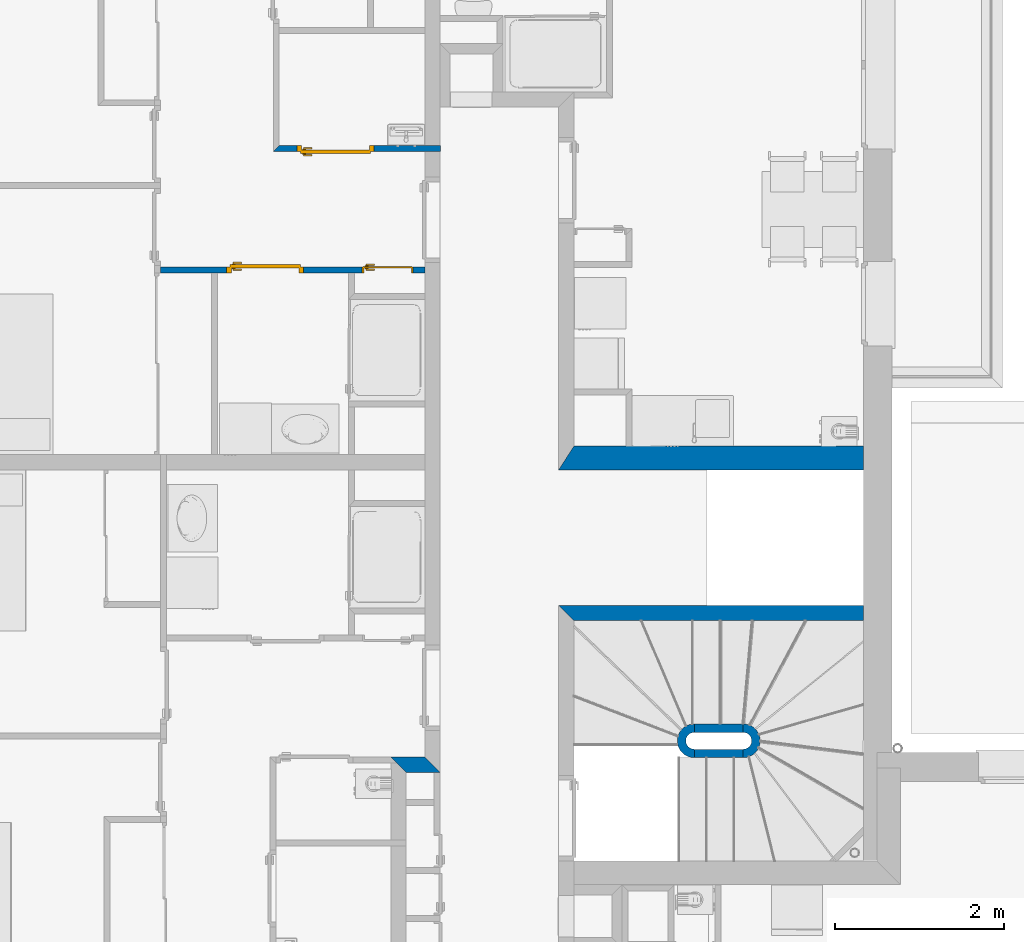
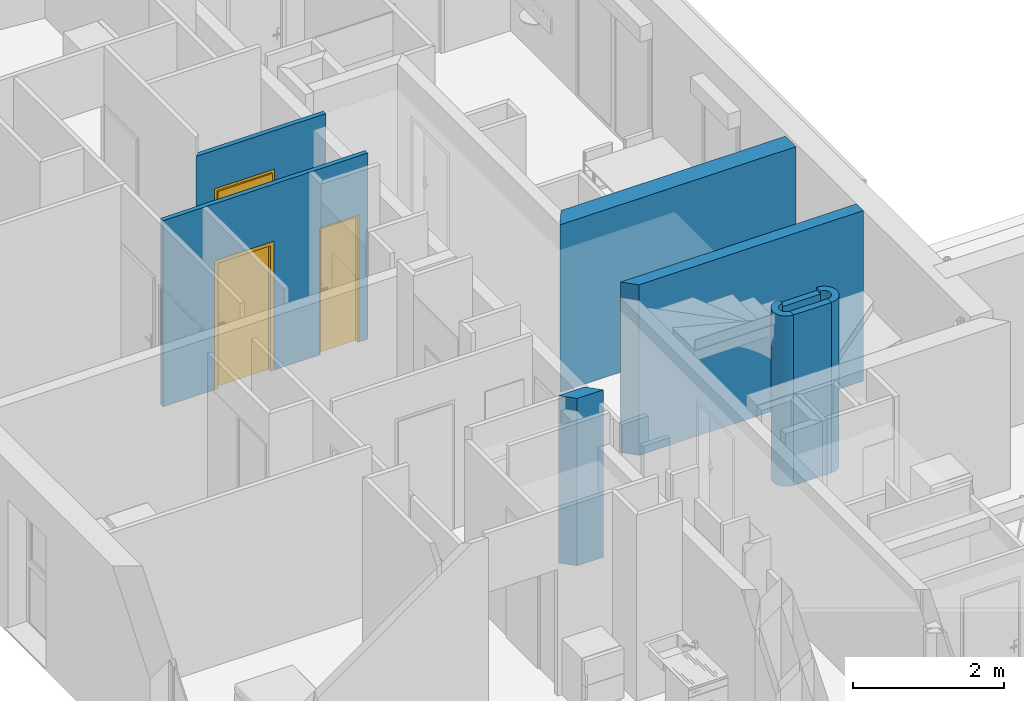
# One storey, part 30 of 164: 9 walls, 3 doors, 3 openings.
"""IFC2X3 building model written with IfcOpenShell, lengths in millimetres."""

from ifc_helpers import new_model, entity, si_unit, converted_unit, derived_unit, money_unit, point, direction, frame, frame_2d, origin_with_axes, origin_2d_with_axis, place, context, subcontext, project, spatial, polyline, circle_curve, parameter, trimmed, segment, composite_curve, rectangle, outline, extrude, faceted_brep, source, transform, mapped, material, layer, layer_set, layer_usage, type_object, element, fill, save


model = new_model("IFC2X3")

# Units and contexts
model_context = context("Model", 3, precision=0.01, world=origin_with_axes(), true_north=direction((0.0, 1.0)))
body_context = subcontext(model_context, "Body", "Model", "MODEL_VIEW")
ifc_project = project(units=[si_unit("LENGTHUNIT", "METRE", prefix="MILLI"), si_unit("AREAUNIT", "SQUARE_METRE"), si_unit("VOLUMEUNIT", "CUBIC_METRE"), converted_unit("PLANEANGLEUNIT", "DEGREE", entity("IfcPlaneAngleMeasure", 0.0174532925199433), si_unit("PLANEANGLEUNIT", "RADIAN"), dimensions=[0, 0, 0, 0, 0, 0, 0]), money_unit("USD"), converted_unit("TIMEUNIT", "Year", entity("IfcTimeMeasure", 31557600.0), si_unit("TIMEUNIT", "SECOND"), dimensions=[0, 0, 1, 0, 0, 0, 0]), si_unit("MASSUNIT", "GRAM", prefix="KILO"), si_unit("THERMODYNAMICTEMPERATUREUNIT", "DEGREE_CELSIUS"), si_unit("LUMINOUSINTENSITYUNIT", "LUMEN"), si_unit("ENERGYUNIT", "JOULE", prefix="MEGA"), derived_unit("THERMALCONDUCTANCEUNIT", [(si_unit("POWERUNIT", "WATT"), 1), (si_unit("LENGTHUNIT", "METRE"), -1), (si_unit("THERMODYNAMICTEMPERATUREUNIT", "KELVIN"), -1)]), derived_unit("SPECIFICHEATCAPACITYUNIT", [(si_unit("ENERGYUNIT", "JOULE"), 1), (si_unit("MASSUNIT", "GRAM", prefix="KILO"), -1), (si_unit("THERMODYNAMICTEMPERATUREUNIT", "KELVIN"), -1)]), derived_unit("MASSDENSITYUNIT", [(si_unit("MASSUNIT", "GRAM", prefix="KILO"), 1), (si_unit("VOLUMEUNIT", "CUBIC_METRE"), -1)])], contexts=[model_context])

# Site, building, storey
site_placement = place(None, origin_with_axes())
site = spatial("IfcSite", under=ifc_project, at=site_placement, Name="Site", CompositionType="ELEMENT")
building_placement = place(site_placement, origin_with_axes())
building = spatial("IfcBuilding", under=site, at=building_placement, Name="Bâtiment", CompositionType="ELEMENT")
storey_placement = place(building_placement, frame((0.0, 0.0, 5750.0), z_axis=(0.0, 0.0, 1.0), x_axis=(1.0, 0.0, 0.0)))
storey = spatial("IfcBuildingStorey", under=building, at=storey_placement, Name="Etage1", CompositionType="ELEMENT", Elevation=5750.0)

# Walls
ifc_material_1 = material(Name="Parpaing 314940890")
ifc_layer_1 = layer(ifc_material_1, 180.0, ventilated="UNKNOWN")
ifc_layer_set_1 = layer_set([ifc_layer_1], Name="Beton  18 0018356637")
ifc_layer_usage_1 = layer_usage(ifc_layer_set_1, "AXIS2", "POSITIVE", 0.0)
wall_type_1 = type_object("IfcWallType", Name="Beton  18 0018356637 180", PredefinedType="NOTDEFINED")
wall_1_placement = place(storey_placement, frame((2224312.399066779, -636007.2995732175, 0.0), z_axis=(0.0, 0.0, 1.0), x_axis=(-0.9999999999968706, 2.501772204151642e-06, 0.0)))
element("IfcWallStandardCase", 1, at=wall_1_placement, inside=storey, type_object=wall_type_1, material=ifc_layer_usage_1, Name="Mur-142", context=body_context, shape_type="SweptSolid", body=[
    extrude(outline(polyline([(180.0000000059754, 0.0), (579.9989459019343, 0.0), (399.9984955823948, 180.0000000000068), (-0.001451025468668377, 179.9999999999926), (180.0000000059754, 0.0)])), origin_with_axes(), (0.0, 0.0, 1.0), 2700.0),
])
ifc_layer_usage_2 = layer_usage(ifc_layer_set_1, "AXIS2", "POSITIVE", 0.0)
wall_2_placement = place(storey_placement, frame((2225712.318356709, -634393.514679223, 0.0), z_axis=(0.0, 0.0, 1.0), x_axis=(1.0, 0.0, 0.0)))
element("IfcWallStandardCase", 2, at=wall_2_placement, inside=storey, type_object=wall_type_1, material=ifc_layer_usage_2, Name="Mur-143", context=body_context, shape_type="SweptSolid", body=[
    extrude(outline(polyline([(179.99999999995, 0.0), (3601.157680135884, 0.0), (3601.157680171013, 180.0000000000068), (1.13686837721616e-10, 180.0000000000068), (179.99999999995, 0.0)])), origin_with_axes(), (0.0, 0.0, 1.0), 2750.0),
])

# Wall, opening, door
ifc_material_2 = material(Name="Hachure solide 268963992")
ifc_layer_2 = layer(ifc_material_2, 70.0, ventilated="UNKNOWN")
ifc_layer_set_2 = layer_set([ifc_layer_2], Name="Cloison 70 0826278243")
ifc_layer_usage_3 = layer_usage(ifc_layer_set_2, "AXIS2", "POSITIVE", -70.0)
wall_type_2 = type_object("IfcWallType", Name="Cloison 70 0826278243 70", PredefinedType="NOTDEFINED")
wall_3_placement = place(storey_placement, frame((2224317.414002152, -628849.987292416, 0.0), z_axis=(0.0, 0.0, 1.0), x_axis=(-1.0, 0.0, 0.0)))
wall_3 = element("IfcWallStandardCase", 3, at=wall_3_placement, inside=storey, type_object=wall_type_2, material=ifc_layer_usage_3, Name="Mur-149", context=body_context, shape_type="SweptSolid", body=[
    extrude(outline(polyline([(0.0, -70.00000000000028), (1905.095308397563, -70.00000000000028), (1975.095355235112, 0.0), (0.0, 0.0), (0.0, -70.00000000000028)])), origin_with_axes(), (0.0, 0.0, 1.0), 2700.0),
])
opening_1_placement = place(wall_3_placement, frame((1240.456401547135, 0.0, 0.0), z_axis=(0.0, 0.0, 1.0), x_axis=(1.0, 0.0, 0.0)))
opening_1 = element("IfcOpeningElement", 4, at=opening_1_placement, cuts=wall_3, Name="Por-276", context=body_context, shape_type="SweptSolid", body=[
    extrude(rectangle(XDim=910.0, YDim=2080.0, at=origin_2d_with_axis()), frame((0.0, -70.00000000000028, 1040.0), z_axis=(0.0, -1.0, 0.0), x_axis=(-1.0, 0.0, 0.0)), (0.0, 0.0, -1.0), 140.0),
])
door_style = type_object("IfcDoorStyle", Name="Porte_1v", ConstructionType="NOTDEFINED", OperationType="NOTDEFINED", ParameterTakesPrecedence=False, Sizeable=False)
shared_shape_1 = source(origin_with_axes(), body_context, "Body", "Brep", [
    faceted_brep([(-454.9999999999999, 0.0, 0.0), (-454.9999999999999, 0.0, 2080.0), (454.9999999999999, 0.0, 2080.0), (454.9999999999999, 0.0, 0.0), (414.9999999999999, 0.0, 0.0), (414.9999999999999, 0.0, 2040.0), (-414.9999999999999, 0.0, 2040.0), (-414.9999999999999, 0.0, 0.0), (-454.9999999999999, -69.99999999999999, 0.0), (-454.9999999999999, -69.99999999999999, 2080.0), (454.9999999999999, -69.99999999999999, 2080.0), (454.9999999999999, -69.99999999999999, 0.0), (399.9999999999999, -69.99999999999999, 0.0), (399.9999999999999, -15.0, 0.0), (414.9999999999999, -15.0, 0.0), (414.9999999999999, -15.0, 2040.0), (-414.9999999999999, -14.99999999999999, 2040.0), (-414.9999999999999, -14.99999999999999, 0.0), (-399.9999999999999, -14.99999999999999, 0.0), (-399.9999999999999, -69.99999999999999, 0.0), (-399.9999999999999, -69.99999999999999, 2025.0), (399.9999999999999, -69.99999999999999, 2025.0), (399.9999999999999, -15.0, 2025.0), (-399.9999999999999, -14.99999999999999, 2025.0)], [[[0, 1, 2, 3, 4, 5, 6, 7]], [[8, 9, 1, 0]], [[9, 10, 2, 1]], [[10, 11, 3, 2]], [[3, 11, 12, 13, 14, 4]], [[5, 4, 14, 15]], [[6, 5, 15, 16]], [[7, 6, 16, 17]], [[0, 7, 17, 18, 19, 8]], [[19, 20, 21, 12, 11, 10, 9, 8]], [[22, 13, 12, 21]], [[17, 16, 15, 14, 13, 22, 23, 18]], [[18, 23, 20, 19]], [[23, 22, 21, 20]]]),
    faceted_brep([(350.0, -15.0, 900.0), (350.0, -15.0, 1100.0), (389.9999999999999, -15.0, 1100.0), (389.9999999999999, -15.0, 900.0), (350.0, -25.0, 900.0), (350.0, -25.0, 1100.0), (389.9999999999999, -25.0, 1100.0), (389.9999999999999, -25.0, 900.0)], [[[0, 1, 2, 3]], [[0, 4, 5, 1]], [[1, 5, 6, 2]], [[2, 6, 7, 3]], [[3, 7, 4, 0]], [[7, 6, 5, 4]]]),
    faceted_brep([(279.9999999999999, -25.0, 1000.0), (279.9999999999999, -25.0, 1020.0), (379.9999999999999, -25.0, 1020.0), (379.9999999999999, -25.0, 1000.0), (279.9999999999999, -45.0, 1000.0), (279.9999999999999, -45.0, 1020.0), (379.9999999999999, -45.0, 1020.0), (379.9999999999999, -45.0, 1000.0)], [[[0, 1, 2, 3]], [[0, 4, 5, 1]], [[1, 5, 6, 2]], [[2, 6, 7, 3]], [[3, 7, 4, 0]], [[7, 6, 5, 4]]]),
    faceted_brep([(350.0, 34.99999999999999, 900.0), (350.0, 34.99999999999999, 1100.0), (389.9999999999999, 34.99999999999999, 1100.0), (389.9999999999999, 34.99999999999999, 900.0), (350.0, 24.99999999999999, 900.0), (350.0, 24.99999999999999, 1100.0), (389.9999999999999, 24.99999999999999, 1100.0), (389.9999999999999, 24.99999999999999, 900.0)], [[[0, 1, 2, 3]], [[0, 4, 5, 1]], [[1, 5, 6, 2]], [[2, 6, 7, 3]], [[3, 7, 4, 0]], [[7, 6, 5, 4]]]),
    faceted_brep([(279.9999999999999, 54.99999999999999, 1000.0), (279.9999999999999, 54.99999999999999, 1020.0), (379.9999999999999, 54.99999999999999, 1020.0), (379.9999999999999, 54.99999999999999, 1000.0), (279.9999999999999, 34.99999999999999, 1000.0), (279.9999999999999, 34.99999999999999, 1020.0), (379.9999999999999, 34.99999999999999, 1020.0), (379.9999999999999, 34.99999999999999, 1000.0)], [[[0, 1, 2, 3]], [[0, 4, 5, 1]], [[1, 5, 6, 2]], [[2, 6, 7, 3]], [[3, 7, 4, 0]], [[7, 6, 5, 4]]]),
    faceted_brep([(414.9999999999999, 24.99999999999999, 0.0), (414.9999999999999, -15.0, 0.0), (-414.9999999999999, -14.99999999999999, 0.0), (-414.9999999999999, 25.0, 0.0), (414.9999999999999, 24.99999999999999, 2040.0), (414.9999999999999, -15.0, 2040.0), (-414.9999999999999, -14.99999999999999, 2040.0), (-414.9999999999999, 25.0, 2040.0)], [[[0, 1, 2, 3]], [[4, 5, 1, 0]], [[1, 5, 6, 2]], [[3, 2, 6, 7]], [[0, 3, 7, 4]], [[7, 6, 5, 4]]]),
])
door_1_placement = place(opening_1_placement, frame((-414.9999999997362, 0.0, 0.0), z_axis=(0.0, 0.0, 1.0), x_axis=(1.0, 0.0, 0.0)))
door_1 = element("IfcDoor", 5, at=door_1_placement, inside=storey, type_object=door_style, Name="Por-276", OverallHeight=2040.0, OverallWidth=830.0, context=body_context, shape_type="MappedRepresentation", body=[
    mapped(shared_shape_1, transform((414.9999999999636, 0.0, 0.0))),
])
fill(opening_1, door_1)

# Wall, openings, doors
ifc_layer_usage_4 = layer_usage(ifc_layer_set_2, "AXIS2", "POSITIVE", -70.0)
wall_4_placement = place(storey_placement, frame((2220940.801403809, -630214.4110607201, 0.0), z_axis=(0.0, 0.0, 1.0), x_axis=(1.0, 0.0, 0.0)))
wall_4 = element("IfcWallStandardCase", 6, at=wall_4_placement, inside=storey, type_object=wall_type_2, material=ifc_layer_usage_4, Name="Mur-150", context=body_context, shape_type="SweptSolid", body=[
    extrude(outline(polyline([(69.99999324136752, -70.00000000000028), (3191.565846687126, -70.00000000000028), (3191.565457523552, 0.0), (69.99999999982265, 0.0), (69.99999324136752, -70.00000000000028)])), origin_with_axes(), (0.0, 0.0, 1.0), 3000.0),
])
opening_2_placement = place(wall_4_placement, frame((1305.181597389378, 0.0, 0.0), z_axis=(0.0, 0.0, 1.0), x_axis=(1.0, 0.0, 0.0)))
opening_2 = element("IfcOpeningElement", 7, at=opening_2_placement, cuts=wall_4, Name="Por-277", context=body_context, shape_type="SweptSolid", body=[
    extrude(rectangle(XDim=910.0, YDim=2080.0, at=origin_2d_with_axis()), frame((0.0, -70.00000000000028, 1040.0), z_axis=(0.0, 1.0, 0.0), x_axis=(1.0, 0.0, 0.0)), (0.0, 0.0, 1.0), 140.0),
])
opening_3_placement = place(wall_4_placement, frame((2751.292571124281, 0.0, 0.0), z_axis=(0.0, 0.0, 1.0), x_axis=(1.0, 0.0, 0.0)))
opening_3 = element("IfcOpeningElement", 8, at=opening_3_placement, cuts=wall_4, Name="Por-276", context=body_context, shape_type="SweptSolid", body=[
    extrude(rectangle(XDim=599.9999999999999, YDim=2050.0, at=origin_2d_with_axis()), frame((0.0, -70.00000000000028, 1025.0), z_axis=(0.0, 1.0, 0.0), x_axis=(1.0, 0.0, 0.0)), (0.0, 0.0, 1.0), 140.0),
])
shared_shape_2 = source(origin_with_axes(), body_context, "Body", "Brep", [
    faceted_brep([(300.0, 0.0, 0.0), (290.0, 0.0, 0.0), (290.0, 0.0, 2040.0), (-290.0, 0.0, 2040.0), (-290.0, 0.0, 0.0), (-300.0, 0.0, 0.0), (-300.0, 0.0, 2050.0), (300.0, 0.0, 2050.0), (300.0, -70.0, 0.0), (279.9999999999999, -70.0, 0.0), (279.9999999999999, -15.0, 0.0), (290.0, -15.0, 0.0), (290.0, -15.0, 2040.0), (-290.0, -15.0, 2040.0), (-290.0, -15.0, 0.0), (-279.9999999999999, -15.0, 0.0), (-279.9999999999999, -70.0, 0.0), (-300.0, -70.0, 0.0), (-300.0, -70.0, 2050.0), (300.0, -70.0, 2050.0), (-279.9999999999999, -70.0, 2030.0), (279.9999999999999, -70.0, 2030.0), (279.9999999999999, -15.0, 2030.0), (-279.9999999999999, -15.0, 2030.0)], [[[0, 1, 2, 3, 4, 5, 6, 7]], [[0, 8, 9, 10, 11, 1]], [[1, 11, 12, 2]], [[2, 12, 13, 3]], [[3, 13, 14, 4]], [[5, 4, 14, 15, 16, 17]], [[18, 6, 5, 17]], [[19, 7, 6, 18]], [[8, 0, 7, 19]], [[9, 8, 19, 18, 17, 16, 20, 21]], [[10, 9, 21, 22]], [[11, 10, 22, 23, 15, 14, 13, 12]], [[23, 20, 16, 15]], [[22, 21, 20, 23]]]),
    faceted_brep([(-224.9999999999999, -15.0, 900.0), (-264.9999999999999, -15.0, 900.0), (-264.9999999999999, -15.0, 1100.0), (-224.9999999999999, -15.0, 1100.0), (-224.9999999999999, -25.0, 900.0), (-264.9999999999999, -25.0, 900.0), (-264.9999999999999, -25.0, 1100.0), (-224.9999999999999, -25.0, 1100.0)], [[[0, 1, 2, 3]], [[1, 0, 4, 5]], [[2, 1, 5, 6]], [[3, 2, 6, 7]], [[0, 3, 7, 4]], [[5, 4, 7, 6]]]),
    faceted_brep([(-154.9999999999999, -25.0, 1000.0), (-254.9999999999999, -25.0, 1000.0), (-254.9999999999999, -25.0, 1020.0), (-154.9999999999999, -25.0, 1020.0), (-154.9999999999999, -45.0, 1000.0), (-254.9999999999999, -45.0, 1000.0), (-254.9999999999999, -45.0, 1020.0), (-154.9999999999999, -45.0, 1020.0)], [[[0, 1, 2, 3]], [[1, 0, 4, 5]], [[2, 1, 5, 6]], [[3, 2, 6, 7]], [[0, 3, 7, 4]], [[5, 4, 7, 6]]]),
    faceted_brep([(-224.9999999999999, 15.0, 900.0), (-264.9999999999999, 15.0, 900.0), (-264.9999999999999, 15.0, 1100.0), (-224.9999999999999, 15.0, 1100.0), (-224.9999999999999, 5.000000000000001, 900.0), (-264.9999999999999, 5.000000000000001, 900.0), (-264.9999999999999, 5.000000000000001, 1100.0), (-224.9999999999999, 5.000000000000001, 1100.0)], [[[0, 1, 2, 3]], [[1, 0, 4, 5]], [[2, 1, 5, 6]], [[3, 2, 6, 7]], [[0, 3, 7, 4]], [[5, 4, 7, 6]]]),
    faceted_brep([(-154.9999999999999, 35.0, 1000.0), (-254.9999999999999, 35.0, 1000.0), (-254.9999999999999, 35.0, 1020.0), (-154.9999999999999, 35.0, 1020.0), (-154.9999999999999, 15.0, 1000.0), (-254.9999999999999, 15.0, 1000.0), (-254.9999999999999, 15.0, 1020.0), (-154.9999999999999, 15.0, 1020.0)], [[[0, 1, 2, 3]], [[1, 0, 4, 5]], [[2, 1, 5, 6]], [[3, 2, 6, 7]], [[0, 3, 7, 4]], [[5, 4, 7, 6]]]),
    faceted_brep([(-290.0, 5.000000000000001, 0.0), (290.0, 5.000000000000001, 0.0), (290.0, -15.0, 0.0), (-290.0, -15.0, 0.0), (-290.0, 5.000000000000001, 2040.0), (290.0, 5.000000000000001, 2040.0), (290.0, -15.0, 2040.0), (-290.0, -15.0, 2040.0)], [[[0, 1, 2, 3]], [[0, 4, 5, 1]], [[1, 5, 6, 2]], [[3, 2, 6, 7]], [[4, 0, 3, 7]], [[5, 4, 7, 6]]]),
])
door_2_placement = place(opening_3_placement, frame((-290.0000000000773, 0.0, 0.0), z_axis=(0.0, 0.0, 1.0), x_axis=(1.0, 0.0, 0.0)))
door_2 = element("IfcDoor", 9, at=door_2_placement, inside=storey, type_object=door_style, Name="Por-276", OverallHeight=2040.0, OverallWidth=580.0, context=body_context, shape_type="MappedRepresentation", body=[
    mapped(shared_shape_2, transform((289.9999999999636, 0.0, 0.0))),
])
fill(opening_3, door_2)
shared_shape_3 = source(origin_with_axes(), body_context, "Body", "Brep", [
    faceted_brep([(455.0, 0.0, 0.0), (415.0000000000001, 0.0, 0.0), (415.0000000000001, 0.0, 2040.0), (-415.0000000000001, 0.0, 2040.0), (-415.0000000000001, 0.0, 0.0), (-455.0, 0.0, 0.0), (-455.0, 0.0, 2080.0), (455.0, 0.0, 2080.0), (455.0, -70.0, 0.0), (400.0, -70.0, 0.0), (400.0, -15.0, 0.0), (415.0000000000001, -15.0, 0.0), (415.0000000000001, -15.0, 2040.0), (-415.0000000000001, -15.0, 2040.0), (-415.0000000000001, -15.0, 0.0), (-400.0, -15.0, 0.0), (-400.0, -70.0, 0.0), (-455.0, -70.0, 0.0), (-455.0, -70.0, 2080.0), (455.0, -70.0, 2080.0), (-400.0, -70.0, 2025.0), (400.0, -70.0, 2025.0), (400.0, -15.0, 2025.0), (-400.0, -15.0, 2025.0)], [[[0, 1, 2, 3, 4, 5, 6, 7]], [[0, 8, 9, 10, 11, 1]], [[1, 11, 12, 2]], [[2, 12, 13, 3]], [[3, 13, 14, 4]], [[5, 4, 14, 15, 16, 17]], [[18, 6, 5, 17]], [[19, 7, 6, 18]], [[8, 0, 7, 19]], [[9, 8, 19, 18, 17, 16, 20, 21]], [[10, 9, 21, 22]], [[11, 10, 22, 23, 15, 14, 13, 12]], [[23, 20, 16, 15]], [[22, 21, 20, 23]]]),
    faceted_brep([(-350.0000000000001, -15.0, 900.0), (-390.0, -15.0, 900.0), (-390.0, -15.0, 1100.0), (-350.0000000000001, -15.0, 1100.0), (-350.0000000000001, -25.0, 900.0), (-390.0, -25.0, 900.0), (-390.0, -25.0, 1100.0), (-350.0000000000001, -25.0, 1100.0)], [[[0, 1, 2, 3]], [[1, 0, 4, 5]], [[2, 1, 5, 6]], [[3, 2, 6, 7]], [[0, 3, 7, 4]], [[5, 4, 7, 6]]]),
    faceted_brep([(-280.0, -25.0, 1000.0), (-380.0, -25.0, 1000.0), (-380.0, -25.0, 1020.0), (-280.0, -25.0, 1020.0), (-280.0, -45.0, 1000.0), (-380.0, -45.0, 1000.0), (-380.0, -45.0, 1020.0), (-280.0, -45.0, 1020.0)], [[[0, 1, 2, 3]], [[1, 0, 4, 5]], [[2, 1, 5, 6]], [[3, 2, 6, 7]], [[0, 3, 7, 4]], [[5, 4, 7, 6]]]),
    faceted_brep([(-350.0000000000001, 35.0, 900.0), (-390.0, 35.0, 900.0), (-390.0, 35.0, 1100.0), (-350.0000000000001, 35.0, 1100.0), (-350.0000000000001, 25.0, 900.0), (-390.0, 25.0, 900.0), (-390.0, 25.0, 1100.0), (-350.0000000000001, 25.0, 1100.0)], [[[0, 1, 2, 3]], [[1, 0, 4, 5]], [[2, 1, 5, 6]], [[3, 2, 6, 7]], [[0, 3, 7, 4]], [[5, 4, 7, 6]]]),
    faceted_brep([(-280.0, 55.00000000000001, 1000.0), (-380.0, 55.00000000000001, 1000.0), (-380.0, 55.00000000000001, 1020.0), (-280.0, 55.00000000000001, 1020.0), (-280.0, 35.0, 1000.0), (-380.0, 35.0, 1000.0), (-380.0, 35.0, 1020.0), (-280.0, 35.0, 1020.0)], [[[0, 1, 2, 3]], [[1, 0, 4, 5]], [[2, 1, 5, 6]], [[3, 2, 6, 7]], [[0, 3, 7, 4]], [[5, 4, 7, 6]]]),
    faceted_brep([(-415.0000000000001, 25.0, 0.0), (415.0000000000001, 25.0, 0.0), (415.0000000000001, -15.0, 0.0), (-415.0000000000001, -15.0, 0.0), (-415.0000000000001, 25.0, 2040.0), (415.0000000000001, 25.0, 2040.0), (415.0000000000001, -15.0, 2040.0), (-415.0000000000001, -15.0, 2040.0)], [[[0, 1, 2, 3]], [[0, 4, 5, 1]], [[1, 5, 6, 2]], [[3, 2, 6, 7]], [[4, 0, 3, 7]], [[5, 4, 7, 6]]]),
])
door_3_placement = place(opening_2_placement, frame((-415.0000000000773, 0.0, 0.0), z_axis=(0.0, 0.0, 1.0), x_axis=(1.0, 0.0, 0.0)))
door_3 = element("IfcDoor", 10, at=door_3_placement, inside=storey, type_object=door_style, Name="Por-277", OverallHeight=2040.0, OverallWidth=830.0, context=body_context, shape_type="MappedRepresentation", body=[
    mapped(shared_shape_3, transform((414.9999999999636, 0.0, 0.0))),
])
fill(opening_2, door_3)

# Walls
ifc_material_3 = material(Name="Brique 1 268964100")
ifc_layer_3 = layer(ifc_material_3, 100.0, ventilated="UNKNOWN")
ifc_layer_set_3 = layer_set([ifc_layer_3], Name="Cloison 100 gaine 0826278243")
ifc_layer_usage_5 = layer_usage(ifc_layer_set_3, "AXIS2", "POSITIVE", 0.0)
wall_type_3 = type_object("IfcWallType", Name="Cloison 100 gaine 0826278243 100", PredefinedType="NOTDEFINED")
wall_5_placement = place(storey_placement, frame((2227315.078686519, -635613.5142766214, 0.0), z_axis=(0.0, 0.0, 1.0), x_axis=(-0.9999999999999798, -2.014265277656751e-07, 0.0)))
element("IfcWallStandardCase", 11, at=wall_5_placement, inside=storey, type_object=wall_type_3, material=ifc_layer_usage_5, Name="Mur-149", context=body_context, shape_type="SweptSolid", body=[
    extrude(outline(composite_curve([segment(trimmed(circle_curve(frame_2d((-2.013416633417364e-05, 199.9146077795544), x_axis=(-3.021403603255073e-07, -0.9999999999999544)), 199.9146077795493), [point((-8.053643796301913e-05, 0.0)), parameter(0.0)], [point((4.026810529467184e-05, 399.8292155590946)), parameter(180.0000115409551)], True, "CARTESIAN"), True, "CONTINUOUS"), segment(polyline([(4.026810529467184e-05, 399.8292155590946), (2.012541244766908e-05, 299.8292155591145)]), True, "CONTINUOUS"), segment(trimmed(circle_curve(frame_2d((-1.006287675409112e-05, 199.9146077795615), x_axis=(-3.02140896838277e-07, -0.9999999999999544)), 99.91460777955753), [point((2.012541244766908e-05, 299.8292155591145)), parameter(180.0000115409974)], [point((-4.025116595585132e-05, 100.0000000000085)), parameter(0.0)], False, "CARTESIAN"), True, "CONTINUOUS"), segment(polyline([(-4.025116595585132e-05, 100.0000000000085), (-8.053643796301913e-05, 0.0)]), True, "CONTINUOUS")], self_intersect=False)), origin_with_axes(), (0.0, 0.0, 1.0), 2750.0),
])
ifc_layer_usage_6 = layer_usage(ifc_layer_set_3, "AXIS2", "POSITIVE", 0.0)
wall_6_placement = place(storey_placement, frame((2227315.078605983, -636013.3435546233, 0.0), z_axis=(0.0, 0.0, 1.0), x_axis=(0.9999999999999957, -9.348530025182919e-08, 0.0)))
element("IfcWallStandardCase", 12, at=wall_6_placement, inside=storey, type_object=wall_type_3, material=ifc_layer_usage_6, Name="Mur-149", context=body_context, shape_type="SweptSolid", body=[
    extrude(outline(polyline([(0.0001021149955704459, 0.0), (578.4830907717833, 0.0), (578.483090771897, 99.99999999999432), (0.0001021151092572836, 99.99999999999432), (0.0001021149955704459, 0.0)])), origin_with_axes(), (0.0, 0.0, 1.0), 2750.0),
])
ifc_layer_usage_7 = layer_usage(ifc_layer_set_3, "AXIS2", "POSITIVE", 0.0)
wall_7_placement = place(storey_placement, frame((2227893.561755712, -635613.5143931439, 0.0), z_axis=(0.0, 0.0, 1.0), x_axis=(-0.9999999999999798, 2.014278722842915e-07, 0.0)))
element("IfcWallStandardCase", 13, at=wall_7_placement, inside=storey, type_object=wall_type_3, material=ifc_layer_usage_7, Name="Mur-149", context=body_context, shape_type="SweptSolid", body=[
    extrude(outline(polyline([(-2.273736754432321e-10, 0.0), (578.4829886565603, 0.0), (578.4829886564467, 99.99999999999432), (-3.410605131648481e-10, 99.99999999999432), (-2.273736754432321e-10, 0.0)])), origin_with_axes(), (0.0, 0.0, 1.0), 2700.0),
])
ifc_layer_usage_8 = layer_usage(ifc_layer_set_3, "AXIS2", "POSITIVE", 0.0)
wall_8_placement = place(storey_placement, frame((2227893.561675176, -636013.343608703, 0.0), z_axis=(0.0, 0.0, 1.0), x_axis=(0.9999999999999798, -2.014265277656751e-07, 0.0)))
element("IfcWallStandardCase", 14, at=wall_8_placement, inside=storey, type_object=wall_type_3, material=ifc_layer_usage_8, Name="Mur-149", context=body_context, shape_type="SweptSolid", body=[
    extrude(outline(composite_curve([segment(trimmed(circle_curve(frame_2d((2.013416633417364e-05, 199.9146077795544), x_axis=(1.007126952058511e-07, -0.999999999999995)), 199.9146077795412), [point((4.026810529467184e-05, 0.0)), parameter(0.0)], [point((2.273736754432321e-10, 399.8292155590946)), parameter(179.9999884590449)], True, "CARTESIAN"), True, "CONTINUOUS"), segment(polyline([(2.273736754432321e-10, 399.8292155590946), (1.13686837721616e-10, 299.8292155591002)]), True, "CONTINUOUS"), segment(trimmed(circle_curve(frame_2d((1.00627630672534e-05, 199.9146077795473), x_axis=(1.007124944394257e-07, -0.999999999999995)), 99.91460777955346), [point((1.13686837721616e-10, 299.8292155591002)), parameter(179.9999884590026)], [point((2.012541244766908e-05, 99.99999999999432)), parameter(0.0)], False, "CARTESIAN"), True, "CONTINUOUS"), segment(polyline([(2.012541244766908e-05, 99.99999999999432), (4.026810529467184e-05, 0.0)]), True, "CONTINUOUS")], self_intersect=False)), origin_with_axes(), (0.0, 0.0, 1.0), 2750.0),
])
ifc_material_4 = material(Name="Parpaing 312445824")
ifc_layer_4 = layer(ifc_material_4, 180.0, ventilated="UNKNOWN")
ifc_material_5 = material(Name="Isolant styromousse 301821074")
ifc_layer_5 = layer(ifc_material_5, 100.0, ventilated="UNKNOWN")
ifc_layer_set_4 = layer_set([ifc_layer_4, ifc_layer_5], Name="isol int 18+10 0018356637")
ifc_layer_usage_9 = layer_usage(ifc_layer_set_4, "AXIS2", "POSITIVE", 0.0)
wall_type_4 = type_object("IfcWallType", Name="isol int 18+10 0018356637 280", PredefinedType="NOTDEFINED")
wall_9_placement = place(storey_placement, frame((2225712.318356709, -632613.5146792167, 0.0), z_axis=(0.0, 0.0, 1.0), x_axis=(1.0, 0.0, 0.0)))
element("IfcWallStandardCase", 15, at=wall_9_placement, inside=storey, type_object=wall_type_4, material=ifc_layer_usage_9, Name="Mur-142", context=body_context, shape_type="SweptSolid", body=[
    extrude(outline(polyline([(1.13686837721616e-10, 0.0), (3601.157680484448, 0.0), (3601.157680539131, 280.0000000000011), (179.99999999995, 280.0000000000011), (1.13686837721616e-10, 0.0)])), origin_with_axes(), (0.0, 0.0, 1.0), 2700.0),
])

save(model, "model.ifc")
